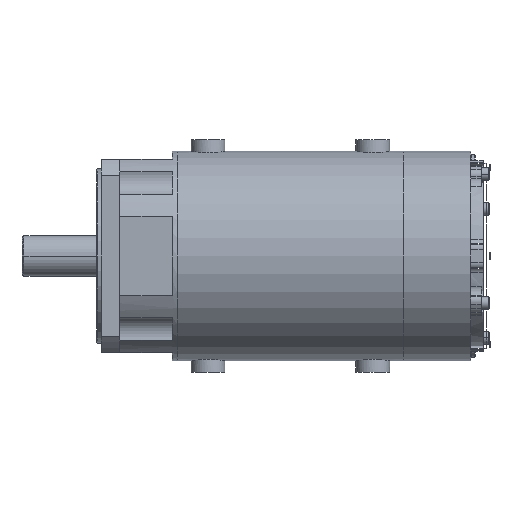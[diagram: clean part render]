
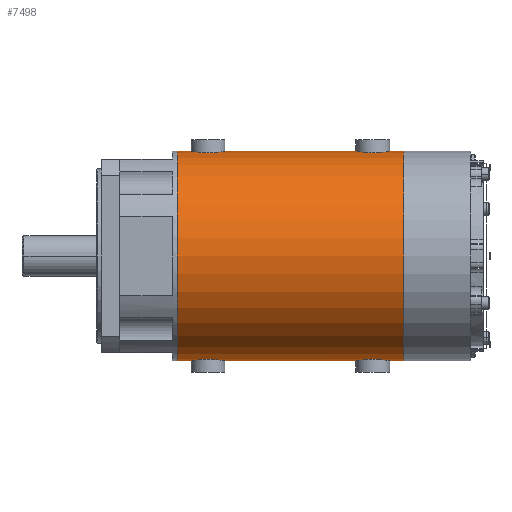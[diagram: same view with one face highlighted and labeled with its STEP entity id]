
A CAD part, front view. The second image highlights one B-rep face of the part: STEP entity #7498.
In plain terms, the highlighted cylindrical face has radius 108 mm (diameter 216 mm), a partial arc.
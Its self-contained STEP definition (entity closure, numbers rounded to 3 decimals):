
#7095=CARTESIAN_POINT('',(120.,0.,108.));
#7096=CARTESIAN_POINT('',(120.,-0.871,108.));
#7097=CARTESIAN_POINT('',(119.786,-2.559,107.98));
#7098=CARTESIAN_POINT('',(118.758,-5.068,107.889));
#7099=CARTESIAN_POINT('',(117.161,-7.136,107.769));
#7100=CARTESIAN_POINT('',(115.096,-8.742,107.648));
#7101=CARTESIAN_POINT('',(112.586,-9.783,107.557));
#7102=CARTESIAN_POINT('',(109.994,-10.109,107.526));
#7103=CARTESIAN_POINT('',(107.412,-9.781,107.557));
#7104=CARTESIAN_POINT('',(104.899,-8.741,107.649));
#7105=CARTESIAN_POINT('',(102.821,-7.119,107.77));
#7106=CARTESIAN_POINT('',(101.239,-5.061,107.89));
#7107=CARTESIAN_POINT('',(100.214,-2.558,107.98));
#7108=CARTESIAN_POINT('',(100.,-0.871,108.));
#7109=CARTESIAN_POINT('',(100.,0.,108.));
#7111=CARTESIAN_POINT('',(290.,0.,108.));
#7112=CARTESIAN_POINT('',(290.,-0.871,108.));
#7113=CARTESIAN_POINT('',(289.786,-2.559,107.98));
#7114=CARTESIAN_POINT('',(288.758,-5.068,107.889));
#7115=CARTESIAN_POINT('',(287.161,-7.136,107.769));
#7116=CARTESIAN_POINT('',(285.096,-8.742,107.648));
#7117=CARTESIAN_POINT('',(282.586,-9.783,107.557));
#7118=CARTESIAN_POINT('',(279.994,-10.109,107.526));
#7119=CARTESIAN_POINT('',(277.412,-9.781,107.557));
#7120=CARTESIAN_POINT('',(274.899,-8.741,107.649));
#7121=CARTESIAN_POINT('',(272.821,-7.119,107.77));
#7122=CARTESIAN_POINT('',(271.239,-5.061,107.89));
#7123=CARTESIAN_POINT('',(270.214,-2.558,107.98));
#7124=CARTESIAN_POINT('',(270.,-0.871,108.));
#7125=CARTESIAN_POINT('',(270.,0.,108.));
#7127=CARTESIAN_POINT('',(312.,0.,0.));
#7128=DIRECTION('',(1.,0.,0.));
#7129=DIRECTION('',(0.,0.,1.));
#7130=AXIS2_PLACEMENT_3D('',#7127,#7128,#7129);
#7132=DIRECTION('',(-1.,0.,0.));
#7133=VECTOR('',#7132,22.);
#7134=CARTESIAN_POINT('',(312.,0.,-108.));
#7135=LINE('',#7134,#7133);
#7136=CARTESIAN_POINT('',(270.,0.,-108.));
#7137=CARTESIAN_POINT('',(270.,-0.801,-108.));
#7138=CARTESIAN_POINT('',(270.183,-2.362,
-107.983));
#7139=CARTESIAN_POINT('',(271.053,-4.69,
-107.906));
#7140=CARTESIAN_POINT('',(272.434,-6.681,
-107.798));
#7141=CARTESIAN_POINT('',(274.214,-8.276,
-107.685));
#7142=CARTESIAN_POINT('',(276.419,-9.448,
-107.587));
#7143=CARTESIAN_POINT('',(278.818,-10.025,
-107.534));
#7144=CARTESIAN_POINT('',(281.174,-10.026,
-107.534));
#7145=CARTESIAN_POINT('',(283.577,-9.45,
-107.587));
#7146=CARTESIAN_POINT('',(285.777,-8.281,
-107.685));
#7147=CARTESIAN_POINT('',(287.553,-6.696,
-107.797));
#7148=CARTESIAN_POINT('',(288.944,-4.697,
-107.905));
#7149=CARTESIAN_POINT('',(289.817,-2.364,
-107.983));
#7150=CARTESIAN_POINT('',(290.,-0.801,-108.));
#7151=CARTESIAN_POINT('',(290.,0.,-108.));
#7153=DIRECTION('',(-1.,0.,0.));
#7154=VECTOR('',#7153,150.);
#7155=CARTESIAN_POINT('',(270.,0.,-108.));
#7156=LINE('',#7155,#7154);
#7157=CARTESIAN_POINT('',(100.,0.,-108.));
#7158=CARTESIAN_POINT('',(100.,-0.801,-108.));
#7159=CARTESIAN_POINT('',(100.183,-2.362,
-107.983));
#7160=CARTESIAN_POINT('',(101.053,-4.69,
-107.906));
#7161=CARTESIAN_POINT('',(102.434,-6.681,
-107.798));
#7162=CARTESIAN_POINT('',(104.214,-8.276,
-107.685));
#7163=CARTESIAN_POINT('',(106.419,-9.448,
-107.587));
#7164=CARTESIAN_POINT('',(108.818,-10.025,
-107.534));
#7165=CARTESIAN_POINT('',(111.174,-10.026,
-107.534));
#7166=CARTESIAN_POINT('',(113.577,-9.45,
-107.587));
#7167=CARTESIAN_POINT('',(115.777,-8.281,
-107.685));
#7168=CARTESIAN_POINT('',(117.553,-6.696,
-107.797));
#7169=CARTESIAN_POINT('',(118.944,-4.697,
-107.905));
#7170=CARTESIAN_POINT('',(119.817,-2.364,
-107.983));
#7171=CARTESIAN_POINT('',(120.,-0.801,-108.));
#7172=CARTESIAN_POINT('',(120.,0.,-108.));
#7174=DIRECTION('',(-1.,0.,0.));
#7175=VECTOR('',#7174,22.);
#7176=CARTESIAN_POINT('',(100.,0.,-108.));
#7177=LINE('',#7176,#7175);
#7178=CARTESIAN_POINT('',(78.,0.,0.));
#7179=DIRECTION('',(-1.,0.,0.));
#7180=DIRECTION('',(0.,0.,-1.));
#7181=AXIS2_PLACEMENT_3D('',#7178,#7179,#7180);
#7241=DIRECTION('',(-1.,0.,0.));
#7242=VECTOR('',#7241,22.);
#7243=CARTESIAN_POINT('',(100.,0.,108.));
#7244=LINE('',#7243,#7242);
#7287=DIRECTION('',(-1.,0.,0.));
#7288=VECTOR('',#7287,22.);
#7289=CARTESIAN_POINT('',(312.,0.,108.));
#7290=LINE('',#7289,#7288);
#7308=DIRECTION('',(-1.,0.,0.));
#7309=VECTOR('',#7308,150.);
#7310=CARTESIAN_POINT('',(270.,0.,108.));
#7311=LINE('',#7310,#7309);
#7435=CARTESIAN_POINT('',(312.,0.,-108.));
#7436=CARTESIAN_POINT('',(312.,0.,108.));
#7437=VERTEX_POINT('',#7435);
#7438=VERTEX_POINT('',#7436);
#7439=CARTESIAN_POINT('',(78.,0.,-108.));
#7440=CARTESIAN_POINT('',(78.,0.,108.));
#7441=VERTEX_POINT('',#7439);
#7442=VERTEX_POINT('',#7440);
#7443=VERTEX_POINT('',#7157);
#7444=VERTEX_POINT('',#7172);
#7445=VERTEX_POINT('',#7136);
#7446=VERTEX_POINT('',#7151);
#7451=CARTESIAN_POINT('',(120.,0.,108.));
#7453=VERTEX_POINT('',#7451);
#7455=CARTESIAN_POINT('',(100.,0.,108.));
#7457=VERTEX_POINT('',#7455);
#7459=CARTESIAN_POINT('',(290.,0.,108.));
#7461=VERTEX_POINT('',#7459);
#7463=CARTESIAN_POINT('',(270.,0.,108.));
#7465=VERTEX_POINT('',#7463);
#7467=CARTESIAN_POINT('',(312.,0.,0.));
#7468=DIRECTION('',(-1.,0.,0.));
#7469=DIRECTION('',(0.,0.,-1.));
#7470=AXIS2_PLACEMENT_3D('',#7467,#7468,#7469);
#7471=CYLINDRICAL_SURFACE('',#7470,108.);
#7473=ORIENTED_EDGE('',*,*,#7472,.F.);
#7475=ORIENTED_EDGE('',*,*,#7474,.F.);
#7477=ORIENTED_EDGE('',*,*,#7476,.F.);
#7479=ORIENTED_EDGE('',*,*,#7478,.F.);
#7481=ORIENTED_EDGE('',*,*,#7480,.T.);
#7483=ORIENTED_EDGE('',*,*,#7482,.T.);
#7485=ORIENTED_EDGE('',*,*,#7484,.F.);
#7487=ORIENTED_EDGE('',*,*,#7486,.T.);
#7489=ORIENTED_EDGE('',*,*,#7488,.F.);
#7491=ORIENTED_EDGE('',*,*,#7490,.T.);
#7493=ORIENTED_EDGE('',*,*,#7492,.T.);
#7495=ORIENTED_EDGE('',*,*,#7494,.F.);
#7496=EDGE_LOOP('',(#7473,#7475,#7477,#7479,#7481,#7483,#7485,#7487,#7489,#7491,
#7493,#7495));
#7497=FACE_OUTER_BOUND('',#7496,.F.);
#7498=ADVANCED_FACE('',(#7497),#7471,.T.);
#7110=B_SPLINE_CURVE_WITH_KNOTS('',3,(#7095,#7096,#7097,#7098,#7099,#7100,#7101,
#7102,#7103,#7104,#7105,#7106,#7107,#7108,#7109),.UNSPECIFIED.,.F.,.F.,(4,1,1,1,
1,1,1,1,1,1,1,1,4),(0.,0.083,0.167,0.25,
0.333,0.417,0.5,0.583,0.667,
0.75,0.833,0.917,1.),.UNSPECIFIED.);
#7126=B_SPLINE_CURVE_WITH_KNOTS('',3,(#7111,#7112,#7113,#7114,#7115,#7116,#7117,
#7118,#7119,#7120,#7121,#7122,#7123,#7124,#7125),.UNSPECIFIED.,.F.,.F.,(4,1,1,1,
1,1,1,1,1,1,1,1,4),(0.,0.083,0.167,0.25,
0.333,0.417,0.5,0.583,0.667,
0.75,0.833,0.917,1.),.UNSPECIFIED.);
#7131=CIRCLE('',#7130,108.);
#7152=B_SPLINE_CURVE_WITH_KNOTS('',3,(#7136,#7137,#7138,#7139,#7140,#7141,#7142,
#7143,#7144,#7145,#7146,#7147,#7148,#7149,#7150,#7151),.UNSPECIFIED.,.F.,.F.,(4,
1,1,1,1,1,1,1,1,1,1,1,1,4),(0.,0.077,0.154,
0.231,0.308,0.385,0.462,
0.538,0.615,0.692,0.769,
0.846,0.923,1.),.UNSPECIFIED.);
#7173=B_SPLINE_CURVE_WITH_KNOTS('',3,(#7157,#7158,#7159,#7160,#7161,#7162,#7163,
#7164,#7165,#7166,#7167,#7168,#7169,#7170,#7171,#7172),.UNSPECIFIED.,.F.,.F.,(4,
1,1,1,1,1,1,1,1,1,1,1,1,4),(0.,0.077,0.154,
0.231,0.308,0.385,0.462,
0.538,0.615,0.692,0.769,
0.846,0.923,1.),.UNSPECIFIED.);
#7182=CIRCLE('',#7181,108.);
#7472=EDGE_CURVE('',#7453,#7457,#7110,.T.);
#7474=EDGE_CURVE('',#7465,#7453,#7311,.T.);
#7476=EDGE_CURVE('',#7461,#7465,#7126,.T.);
#7478=EDGE_CURVE('',#7438,#7461,#7290,.T.);
#7480=EDGE_CURVE('',#7438,#7437,#7131,.T.);
#7482=EDGE_CURVE('',#7437,#7446,#7135,.T.);
#7484=EDGE_CURVE('',#7445,#7446,#7152,.T.);
#7486=EDGE_CURVE('',#7445,#7444,#7156,.T.);
#7488=EDGE_CURVE('',#7443,#7444,#7173,.T.);
#7490=EDGE_CURVE('',#7443,#7441,#7177,.T.);
#7492=EDGE_CURVE('',#7441,#7442,#7182,.T.);
#7494=EDGE_CURVE('',#7457,#7442,#7244,.T.);
